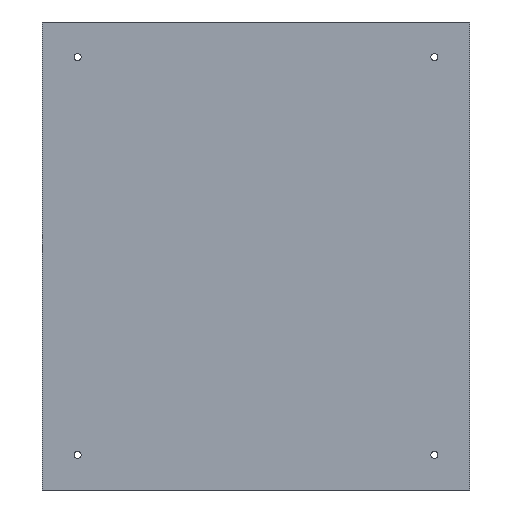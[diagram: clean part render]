
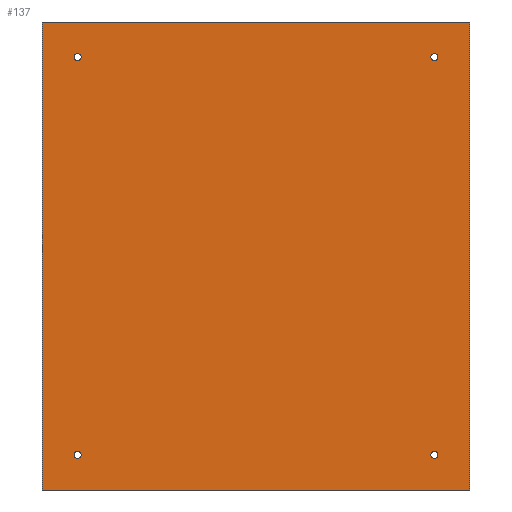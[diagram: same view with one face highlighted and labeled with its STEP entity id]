
A CAD part, front view. The second image highlights one B-rep face of the part: STEP entity #137.
In plain terms, the highlighted planar face has unit normal (0, -1, 0).
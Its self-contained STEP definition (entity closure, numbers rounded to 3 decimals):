
#21 = EDGE_CURVE('',#22,#24,#26,.T.);
#22 = VERTEX_POINT('',#23);
#23 = CARTESIAN_POINT('',(-365.,235.,-400.));
#24 = VERTEX_POINT('',#25);
#25 = CARTESIAN_POINT('',(-365.,235.,400.));
#26 = SURFACE_CURVE('',#27,(#31,#43),.PCURVE_S1.);
#27 = LINE('',#28,#29);
#28 = CARTESIAN_POINT('',(-365.,235.,-400.));
#29 = VECTOR('',#30,1.);
#30 = DIRECTION('',(0.,0.,1.));
#31 = PCURVE('',#32,#37);
#32 = PLANE('',#33);
#33 = AXIS2_PLACEMENT_3D('',#34,#35,#36);
#34 = CARTESIAN_POINT('',(-365.,235.,-400.));
#35 = DIRECTION('',(1.,0.,0.));
#36 = DIRECTION('',(0.,0.,1.));
#37 = DEFINITIONAL_REPRESENTATION('',(#38),#42);
#38 = LINE('',#39,#40);
#39 = CARTESIAN_POINT('',(0.,0.));
#40 = VECTOR('',#41,1.);
#41 = DIRECTION('',(1.,0.));
#42 = ( GEOMETRIC_REPRESENTATION_CONTEXT(2) 
PARAMETRIC_REPRESENTATION_CONTEXT() REPRESENTATION_CONTEXT('2D SPACE',''
  ) );
#43 = PCURVE('',#44,#49);
#44 = PLANE('',#45);
#45 = AXIS2_PLACEMENT_3D('',#46,#47,#48);
#46 = CARTESIAN_POINT('',(-365.,235.,-400.));
#47 = DIRECTION('',(0.,1.,0.));
#48 = DIRECTION('',(0.,0.,1.));
#49 = DEFINITIONAL_REPRESENTATION('',(#50),#54);
#50 = LINE('',#51,#52);
#51 = CARTESIAN_POINT('',(0.,0.));
#52 = VECTOR('',#53,1.);
#53 = DIRECTION('',(1.,0.));
#54 = ( GEOMETRIC_REPRESENTATION_CONTEXT(2) 
PARAMETRIC_REPRESENTATION_CONTEXT() REPRESENTATION_CONTEXT('2D SPACE',''
  ) );
#72 = PLANE('',#73);
#73 = AXIS2_PLACEMENT_3D('',#74,#75,#76);
#74 = CARTESIAN_POINT('',(-365.,235.,-400.));
#75 = DIRECTION('',(0.,0.,1.));
#76 = DIRECTION('',(1.,0.,0.));
#126 = PLANE('',#127);
#127 = AXIS2_PLACEMENT_3D('',#128,#129,#130);
#128 = CARTESIAN_POINT('',(-365.,235.,400.));
#129 = DIRECTION('',(0.,0.,1.));
#130 = DIRECTION('',(1.,0.,0.));
#137 = ADVANCED_FACE('',(#138,#213,#244,#275,#306),#44,.F.);
#138 = FACE_BOUND('',#139,.F.);
#139 = EDGE_LOOP('',(#140,#163,#164,#187));
#140 = ORIENTED_EDGE('',*,*,#141,.F.);
#141 = EDGE_CURVE('',#22,#142,#144,.T.);
#142 = VERTEX_POINT('',#143);
#143 = CARTESIAN_POINT('',(365.,235.,-400.));
#144 = SURFACE_CURVE('',#145,(#149,#156),.PCURVE_S1.);
#145 = LINE('',#146,#147);
#146 = CARTESIAN_POINT('',(-365.,235.,-400.));
#147 = VECTOR('',#148,1.);
#148 = DIRECTION('',(1.,0.,0.));
#149 = PCURVE('',#44,#150);
#150 = DEFINITIONAL_REPRESENTATION('',(#151),#155);
#151 = LINE('',#152,#153);
#152 = CARTESIAN_POINT('',(0.,0.));
#153 = VECTOR('',#154,1.);
#154 = DIRECTION('',(0.,1.));
#155 = ( GEOMETRIC_REPRESENTATION_CONTEXT(2) 
PARAMETRIC_REPRESENTATION_CONTEXT() REPRESENTATION_CONTEXT('2D SPACE',''
  ) );
#156 = PCURVE('',#72,#157);
#157 = DEFINITIONAL_REPRESENTATION('',(#158),#162);
#158 = LINE('',#159,#160);
#159 = CARTESIAN_POINT('',(0.,0.));
#160 = VECTOR('',#161,1.);
#161 = DIRECTION('',(1.,0.));
#162 = ( GEOMETRIC_REPRESENTATION_CONTEXT(2) 
PARAMETRIC_REPRESENTATION_CONTEXT() REPRESENTATION_CONTEXT('2D SPACE',''
  ) );
#163 = ORIENTED_EDGE('',*,*,#21,.T.);
#164 = ORIENTED_EDGE('',*,*,#165,.T.);
#165 = EDGE_CURVE('',#24,#166,#168,.T.);
#166 = VERTEX_POINT('',#167);
#167 = CARTESIAN_POINT('',(365.,235.,400.));
#168 = SURFACE_CURVE('',#169,(#173,#180),.PCURVE_S1.);
#169 = LINE('',#170,#171);
#170 = CARTESIAN_POINT('',(-365.,235.,400.));
#171 = VECTOR('',#172,1.);
#172 = DIRECTION('',(1.,0.,0.));
#173 = PCURVE('',#44,#174);
#174 = DEFINITIONAL_REPRESENTATION('',(#175),#179);
#175 = LINE('',#176,#177);
#176 = CARTESIAN_POINT('',(800.,0.));
#177 = VECTOR('',#178,1.);
#178 = DIRECTION('',(0.,1.));
#179 = ( GEOMETRIC_REPRESENTATION_CONTEXT(2) 
PARAMETRIC_REPRESENTATION_CONTEXT() REPRESENTATION_CONTEXT('2D SPACE',''
  ) );
#180 = PCURVE('',#126,#181);
#181 = DEFINITIONAL_REPRESENTATION('',(#182),#186);
#182 = LINE('',#183,#184);
#183 = CARTESIAN_POINT('',(0.,0.));
#184 = VECTOR('',#185,1.);
#185 = DIRECTION('',(1.,0.));
#186 = ( GEOMETRIC_REPRESENTATION_CONTEXT(2) 
PARAMETRIC_REPRESENTATION_CONTEXT() REPRESENTATION_CONTEXT('2D SPACE',''
  ) );
#187 = ORIENTED_EDGE('',*,*,#188,.F.);
#188 = EDGE_CURVE('',#142,#166,#189,.T.);
#189 = SURFACE_CURVE('',#190,(#194,#201),.PCURVE_S1.);
#190 = LINE('',#191,#192);
#191 = CARTESIAN_POINT('',(365.,235.,-400.));
#192 = VECTOR('',#193,1.);
#193 = DIRECTION('',(0.,0.,1.));
#194 = PCURVE('',#44,#195);
#195 = DEFINITIONAL_REPRESENTATION('',(#196),#200);
#196 = LINE('',#197,#198);
#197 = CARTESIAN_POINT('',(0.,730.));
#198 = VECTOR('',#199,1.);
#199 = DIRECTION('',(1.,0.));
#200 = ( GEOMETRIC_REPRESENTATION_CONTEXT(2) 
PARAMETRIC_REPRESENTATION_CONTEXT() REPRESENTATION_CONTEXT('2D SPACE',''
  ) );
#201 = PCURVE('',#202,#207);
#202 = PLANE('',#203);
#203 = AXIS2_PLACEMENT_3D('',#204,#205,#206);
#204 = CARTESIAN_POINT('',(365.,235.,-400.));
#205 = DIRECTION('',(1.,0.,0.));
#206 = DIRECTION('',(0.,0.,1.));
#207 = DEFINITIONAL_REPRESENTATION('',(#208),#212);
#208 = LINE('',#209,#210);
#209 = CARTESIAN_POINT('',(0.,0.));
#210 = VECTOR('',#211,1.);
#211 = DIRECTION('',(1.,0.));
#212 = ( GEOMETRIC_REPRESENTATION_CONTEXT(2) 
PARAMETRIC_REPRESENTATION_CONTEXT() REPRESENTATION_CONTEXT('2D SPACE',''
  ) );
#213 = FACE_BOUND('',#214,.F.);
#214 = EDGE_LOOP('',(#215));
#215 = ORIENTED_EDGE('',*,*,#216,.F.);
#216 = EDGE_CURVE('',#217,#217,#219,.T.);
#217 = VERTEX_POINT('',#218);
#218 = CARTESIAN_POINT('',(-305.,235.,-334.));
#219 = SURFACE_CURVE('',#220,(#225,#232),.PCURVE_S1.);
#220 = CIRCLE('',#221,6.);
#221 = AXIS2_PLACEMENT_3D('',#222,#223,#224);
#222 = CARTESIAN_POINT('',(-305.,235.,-340.));
#223 = DIRECTION('',(0.,1.,0.));
#224 = DIRECTION('',(0.,-0.,1.));
#225 = PCURVE('',#44,#226);
#226 = DEFINITIONAL_REPRESENTATION('',(#227),#231);
#227 = CIRCLE('',#228,6.);
#228 = AXIS2_PLACEMENT_2D('',#229,#230);
#229 = CARTESIAN_POINT('',(60.,60.));
#230 = DIRECTION('',(1.,0.));
#231 = ( GEOMETRIC_REPRESENTATION_CONTEXT(2) 
PARAMETRIC_REPRESENTATION_CONTEXT() REPRESENTATION_CONTEXT('2D SPACE',''
  ) );
#232 = PCURVE('',#233,#238);
#233 = CYLINDRICAL_SURFACE('',#234,6.);
#234 = AXIS2_PLACEMENT_3D('',#235,#236,#237);
#235 = CARTESIAN_POINT('',(-305.,234.,-340.));
#236 = DIRECTION('',(0.,1.,0.));
#237 = DIRECTION('',(0.,-0.,1.));
#238 = DEFINITIONAL_REPRESENTATION('',(#239),#243);
#239 = LINE('',#240,#241);
#240 = CARTESIAN_POINT('',(0.,1.));
#241 = VECTOR('',#242,1.);
#242 = DIRECTION('',(1.,0.));
#243 = ( GEOMETRIC_REPRESENTATION_CONTEXT(2) 
PARAMETRIC_REPRESENTATION_CONTEXT() REPRESENTATION_CONTEXT('2D SPACE',''
  ) );
#244 = FACE_BOUND('',#245,.F.);
#245 = EDGE_LOOP('',(#246));
#246 = ORIENTED_EDGE('',*,*,#247,.F.);
#247 = EDGE_CURVE('',#248,#248,#250,.T.);
#248 = VERTEX_POINT('',#249);
#249 = CARTESIAN_POINT('',(-305.,235.,346.));
#250 = SURFACE_CURVE('',#251,(#256,#263),.PCURVE_S1.);
#251 = CIRCLE('',#252,6.);
#252 = AXIS2_PLACEMENT_3D('',#253,#254,#255);
#253 = CARTESIAN_POINT('',(-305.,235.,340.));
#254 = DIRECTION('',(0.,1.,0.));
#255 = DIRECTION('',(0.,-0.,1.));
#256 = PCURVE('',#44,#257);
#257 = DEFINITIONAL_REPRESENTATION('',(#258),#262);
#258 = CIRCLE('',#259,6.);
#259 = AXIS2_PLACEMENT_2D('',#260,#261);
#260 = CARTESIAN_POINT('',(740.,60.));
#261 = DIRECTION('',(1.,0.));
#262 = ( GEOMETRIC_REPRESENTATION_CONTEXT(2) 
PARAMETRIC_REPRESENTATION_CONTEXT() REPRESENTATION_CONTEXT('2D SPACE',''
  ) );
#263 = PCURVE('',#264,#269);
#264 = CYLINDRICAL_SURFACE('',#265,6.);
#265 = AXIS2_PLACEMENT_3D('',#266,#267,#268);
#266 = CARTESIAN_POINT('',(-305.,234.,340.));
#267 = DIRECTION('',(0.,1.,0.));
#268 = DIRECTION('',(0.,-0.,1.));
#269 = DEFINITIONAL_REPRESENTATION('',(#270),#274);
#270 = LINE('',#271,#272);
#271 = CARTESIAN_POINT('',(0.,1.));
#272 = VECTOR('',#273,1.);
#273 = DIRECTION('',(1.,0.));
#274 = ( GEOMETRIC_REPRESENTATION_CONTEXT(2) 
PARAMETRIC_REPRESENTATION_CONTEXT() REPRESENTATION_CONTEXT('2D SPACE',''
  ) );
#275 = FACE_BOUND('',#276,.F.);
#276 = EDGE_LOOP('',(#277));
#277 = ORIENTED_EDGE('',*,*,#278,.F.);
#278 = EDGE_CURVE('',#279,#279,#281,.T.);
#279 = VERTEX_POINT('',#280);
#280 = CARTESIAN_POINT('',(305.,235.,-334.));
#281 = SURFACE_CURVE('',#282,(#287,#294),.PCURVE_S1.);
#282 = CIRCLE('',#283,6.);
#283 = AXIS2_PLACEMENT_3D('',#284,#285,#286);
#284 = CARTESIAN_POINT('',(305.,235.,-340.));
#285 = DIRECTION('',(0.,1.,0.));
#286 = DIRECTION('',(0.,-0.,1.));
#287 = PCURVE('',#44,#288);
#288 = DEFINITIONAL_REPRESENTATION('',(#289),#293);
#289 = CIRCLE('',#290,6.);
#290 = AXIS2_PLACEMENT_2D('',#291,#292);
#291 = CARTESIAN_POINT('',(60.,670.));
#292 = DIRECTION('',(1.,0.));
#293 = ( GEOMETRIC_REPRESENTATION_CONTEXT(2) 
PARAMETRIC_REPRESENTATION_CONTEXT() REPRESENTATION_CONTEXT('2D SPACE',''
  ) );
#294 = PCURVE('',#295,#300);
#295 = CYLINDRICAL_SURFACE('',#296,6.);
#296 = AXIS2_PLACEMENT_3D('',#297,#298,#299);
#297 = CARTESIAN_POINT('',(305.,234.,-340.));
#298 = DIRECTION('',(0.,1.,0.));
#299 = DIRECTION('',(0.,-0.,1.));
#300 = DEFINITIONAL_REPRESENTATION('',(#301),#305);
#301 = LINE('',#302,#303);
#302 = CARTESIAN_POINT('',(0.,1.));
#303 = VECTOR('',#304,1.);
#304 = DIRECTION('',(1.,0.));
#305 = ( GEOMETRIC_REPRESENTATION_CONTEXT(2) 
PARAMETRIC_REPRESENTATION_CONTEXT() REPRESENTATION_CONTEXT('2D SPACE',''
  ) );
#306 = FACE_BOUND('',#307,.F.);
#307 = EDGE_LOOP('',(#308));
#308 = ORIENTED_EDGE('',*,*,#309,.F.);
#309 = EDGE_CURVE('',#310,#310,#312,.T.);
#310 = VERTEX_POINT('',#311);
#311 = CARTESIAN_POINT('',(305.,235.,346.));
#312 = SURFACE_CURVE('',#313,(#318,#325),.PCURVE_S1.);
#313 = CIRCLE('',#314,6.);
#314 = AXIS2_PLACEMENT_3D('',#315,#316,#317);
#315 = CARTESIAN_POINT('',(305.,235.,340.));
#316 = DIRECTION('',(0.,1.,0.));
#317 = DIRECTION('',(0.,-0.,1.));
#318 = PCURVE('',#44,#319);
#319 = DEFINITIONAL_REPRESENTATION('',(#320),#324);
#320 = CIRCLE('',#321,6.);
#321 = AXIS2_PLACEMENT_2D('',#322,#323);
#322 = CARTESIAN_POINT('',(740.,670.));
#323 = DIRECTION('',(1.,0.));
#324 = ( GEOMETRIC_REPRESENTATION_CONTEXT(2) 
PARAMETRIC_REPRESENTATION_CONTEXT() REPRESENTATION_CONTEXT('2D SPACE',''
  ) );
#325 = PCURVE('',#326,#331);
#326 = CYLINDRICAL_SURFACE('',#327,6.);
#327 = AXIS2_PLACEMENT_3D('',#328,#329,#330);
#328 = CARTESIAN_POINT('',(305.,234.,340.));
#329 = DIRECTION('',(0.,1.,0.));
#330 = DIRECTION('',(0.,-0.,1.));
#331 = DEFINITIONAL_REPRESENTATION('',(#332),#336);
#332 = LINE('',#333,#334);
#333 = CARTESIAN_POINT('',(0.,1.));
#334 = VECTOR('',#335,1.);
#335 = DIRECTION('',(1.,0.));
#336 = ( GEOMETRIC_REPRESENTATION_CONTEXT(2) 
PARAMETRIC_REPRESENTATION_CONTEXT() REPRESENTATION_CONTEXT('2D SPACE',''
  ) );
